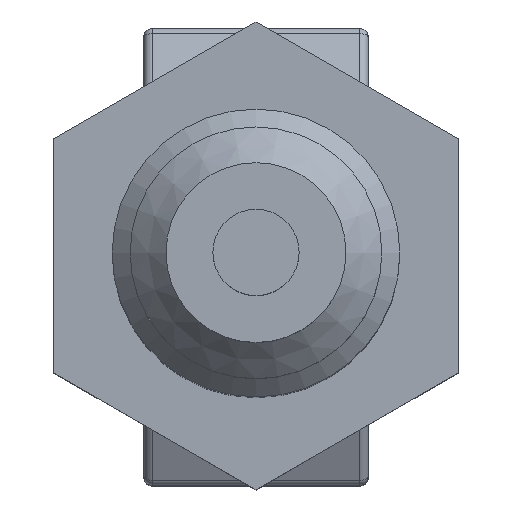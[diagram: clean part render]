
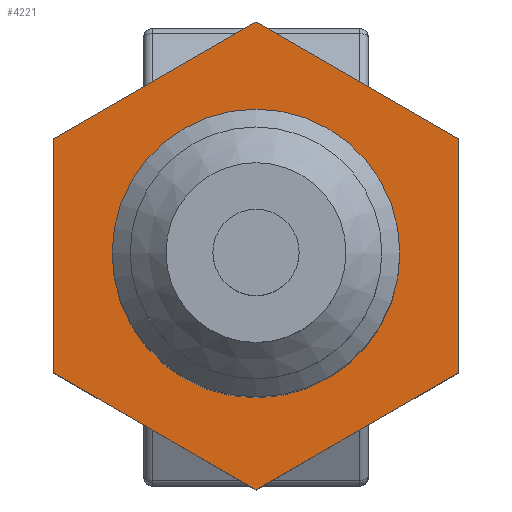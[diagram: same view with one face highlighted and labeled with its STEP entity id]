
A CAD part, top view. The second image highlights one B-rep face of the part: STEP entity #4221.
In plain terms, the highlighted planar face has unit normal (0, 0, 1).
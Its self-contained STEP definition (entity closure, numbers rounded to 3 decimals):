
#147 = VECTOR ( 'NONE', #2468, 1000. ) ;
#203 = DIRECTION ( 'NONE',  ( 0., -1., 0. ) ) ;
#233 = FACE_OUTER_BOUND ( 'NONE', #783, .T. ) ;
#290 = DIRECTION ( 'NONE',  ( -0.866, -0.5, 0. ) ) ;
#540 = LINE ( 'NONE', #3058, #1723 ) ;
#599 = CARTESIAN_POINT ( 'NONE',  ( 0., -13., -102. ) ) ;
#783 = EDGE_LOOP ( 'NONE', ( #4325, #2727, #5365, #1999, #2755, #845 ) ) ;
#845 = ORIENTED_EDGE ( 'NONE', *, *, #4348, .F. ) ;
#859 = AXIS2_PLACEMENT_3D ( 'NONE', #599, #2384, #203 ) ;
#893 = VERTEX_POINT ( 'NONE', #1802 ) ;
#955 = DIRECTION ( 'NONE',  ( 0.866, -0.5, 0. ) ) ;
#974 = EDGE_CURVE ( 'NONE', #1478, #893, #5096, .T. ) ;
#979 = DIRECTION ( 'NONE',  ( 0.866, 0.5, 0. ) ) ;
#1217 = VECTOR ( 'NONE', #3733, 1000. ) ;
#1341 = CARTESIAN_POINT ( 'NONE',  ( 0., 13., -102. ) ) ;
#1478 = VERTEX_POINT ( 'NONE', #4059 ) ;
#1537 = VERTEX_POINT ( 'NONE', #4915 ) ;
#1625 = CARTESIAN_POINT ( 'NONE',  ( 11.258, 6.5, -102. ) ) ;
#1723 = VECTOR ( 'NONE', #979, 1000. ) ;
#1756 = DIRECTION ( 'NONE',  ( 0., 0., -1. ) ) ;
#1802 = CARTESIAN_POINT ( 'NONE',  ( 11.258, 6.5, -102. ) ) ;
#1817 = EDGE_CURVE ( 'NONE', #4540, #5379, #1919, .T. ) ;
#1919 = LINE ( 'NONE', #4805, #2680 ) ;
#1999 = ORIENTED_EDGE ( 'NONE', *, *, #2031, .F. ) ;
#2031 = EDGE_CURVE ( 'NONE', #1537, #1478, #540, .T. ) ;
#2360 = EDGE_LOOP ( 'NONE', ( #3250 ) ) ;
#2384 = DIRECTION ( 'NONE',  ( 0., 0., 1. ) ) ;
#2446 = CARTESIAN_POINT ( 'NONE',  ( 11.258, -6.5, -102. ) ) ;
#2468 = DIRECTION ( 'NONE',  ( -0.866, 0.5, 0. ) ) ;
#2519 = EDGE_CURVE ( 'NONE', #893, #4540, #4064, .T. ) ;
#2680 = VECTOR ( 'NONE', #290, 1000. ) ;
#2727 = ORIENTED_EDGE ( 'NONE', *, *, #2519, .F. ) ;
#2735 = PLANE ( 'NONE',  #859 ) ;
#2755 = ORIENTED_EDGE ( 'NONE', *, *, #5266, .F. ) ;
#2881 = CARTESIAN_POINT ( 'NONE',  ( -11.258, -6.5, -102. ) ) ;
#2985 = DIRECTION ( 'NONE',  ( 1., 0., 0. ) ) ;
#3058 = CARTESIAN_POINT ( 'NONE',  ( -11.258, 6.5, -102. ) ) ;
#3083 = VECTOR ( 'NONE', #955, 1000. ) ;
#3117 = FACE_BOUND ( 'NONE', #2360, .T. ) ;
#3121 = CARTESIAN_POINT ( 'NONE',  ( -11.258, -6.5, -102. ) ) ;
#3250 = ORIENTED_EDGE ( 'NONE', *, *, #5030, .T. ) ;
#3262 = CARTESIAN_POINT ( 'NONE',  ( 0., -13., -102. ) ) ;
#3352 = VERTEX_POINT ( 'NONE', #5359 ) ;
#3733 = DIRECTION ( 'NONE',  ( 0., -1., 0. ) ) ;
#4004 = VERTEX_POINT ( 'NONE', #2881 ) ;
#4059 = CARTESIAN_POINT ( 'NONE',  ( 0., 13., -102. ) ) ;
#4064 = LINE ( 'NONE', #1625, #1217 ) ;
#4158 = CARTESIAN_POINT ( 'NONE',  ( 0., -13., -102. ) ) ;
#4221 = ADVANCED_FACE ( 'NONE', ( #233, #3117 ), #2735, .T. ) ;
#4325 = ORIENTED_EDGE ( 'NONE', *, *, #1817, .F. ) ;
#4348 = EDGE_CURVE ( 'NONE', #5379, #4004, #4547, .T. ) ;
#4540 = VERTEX_POINT ( 'NONE', #2446 ) ;
#4547 = LINE ( 'NONE', #4158, #147 ) ;
#4710 = CARTESIAN_POINT ( 'NONE',  ( 0., 0., -102. ) ) ;
#4805 = CARTESIAN_POINT ( 'NONE',  ( 11.258, -6.5, -102. ) ) ;
#4847 = VECTOR ( 'NONE', #4857, 1000. ) ;
#4857 = DIRECTION ( 'NONE',  ( 0., 1., 0. ) ) ;
#4915 = CARTESIAN_POINT ( 'NONE',  ( -11.258, 6.5, -102. ) ) ;
#5030 = EDGE_CURVE ( 'NONE', #3352, #3352, #5106, .T. ) ;
#5096 = LINE ( 'NONE', #1341, #3083 ) ;
#5106 = CIRCLE ( 'NONE', #5374, 7. ) ;
#5209 = LINE ( 'NONE', #3121, #4847 ) ;
#5266 = EDGE_CURVE ( 'NONE', #4004, #1537, #5209, .T. ) ;
#5359 = CARTESIAN_POINT ( 'NONE',  ( 7., 0., -102. ) ) ;
#5365 = ORIENTED_EDGE ( 'NONE', *, *, #974, .F. ) ;
#5374 = AXIS2_PLACEMENT_3D ( 'NONE', #4710, #1756, #2985 ) ;
#5379 = VERTEX_POINT ( 'NONE', #3262 ) ;
